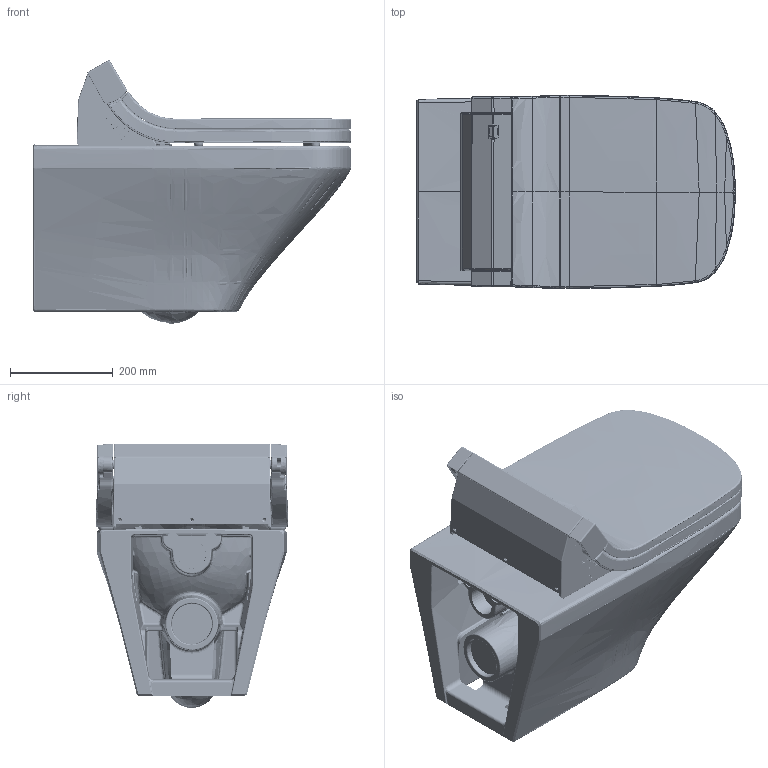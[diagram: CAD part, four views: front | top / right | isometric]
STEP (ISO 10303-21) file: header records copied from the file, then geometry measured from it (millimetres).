
FILE_DESCRIPTION((''),'2;1');
FILE_NAME('C:\Users\Administrator\Desktop\NEWS 2014 Step 1\SensoWash_e mit versch. Serien\3d\stp\254259_610200_e.stp','2014-11-13T10:37:32',('Administrator'),(''),'Autodesk Inventor 2011','Autodesk Inventor 2011','');
FILE_SCHEMA(('CONFIG_CONTROL_DESIGN'));
Length unit declared in the file: millimetre
Products named in the file (15): 254259_610200_e; 254259; 610200_e; SEAT_ASM; 1F221-A0-01; 1F221-B0-01; 1F218-B0-01; COVERS; BODY-CASE; 1F219-01-01; INFRARED-LEFT; BUTTON-MEMBRANE; LID-CUSHION; PLATE1; PLATE2
Assembly tree (18 placements, depth 4):
  254259_610200_e
    254259
    610200_e
      SEAT_ASM
        1F221-A0-01
        1F221-B0-01
        1F218-B0-01
      COVERS
      BODY-CASE
      1F219-01-01
      INFRARED-LEFT
      BUTTON-MEMBRANE
      LID-CUSHION  x2
      1F218-B0-01  x3
      PLATE1
      PLATE2
Bounding box: 620.16 x 375.94 x 513.94 mm (x, y, z)
Volume: 23587567.5 mm3; surface area: 2722113.4 mm2
Topology: 17 solids, 18 shells, 6702 faces, 16979 edges, 10388 vertices
Faces by surface type: bspline 2557, plane 2249, cylinder 1185, cone 284, torus 281, sphere 146
Full cylindrical faces by diameter (mm): 2 x1, 2.4 x2, 2.5 x1, 2.6 x3, 3.2 x2, 3.8 x1, 4 x6, 4.5 x1, 5 x3, 7.5 x3, 8 x9, 9 x2, 10 x3, 15.2 x2, 16 x2, 18 x3, 25 x2, 28.2 x1, 40 x2
Entity records: 453760 total; most frequent: CARTESIAN_POINT 306449, ORIENTED_EDGE 33354, DIRECTION 24753, EDGE_CURVE 16677, VERTEX_POINT 10280, AXIS2_PLACEMENT_3D 9044, EDGE_LOOP 6995, FACE_OUTER_BOUND 6665
